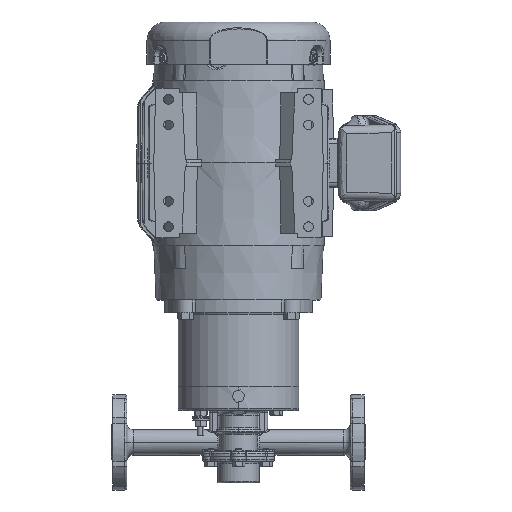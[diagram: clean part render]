
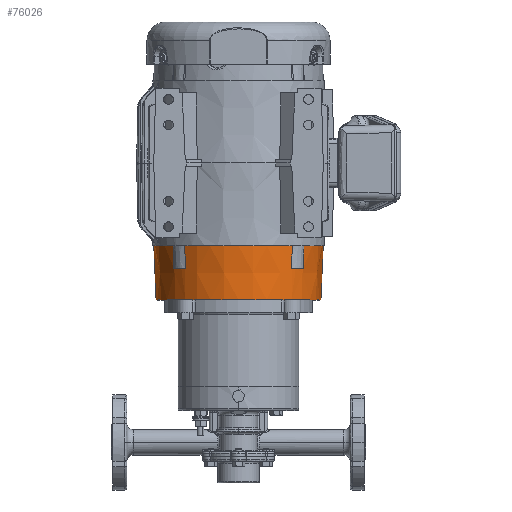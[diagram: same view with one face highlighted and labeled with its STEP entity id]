
A CAD part, top view. The second image highlights one B-rep face of the part: STEP entity #76026.
In plain terms, the highlighted conical face has half-angle 2.355 degrees and reference radius 84.582 mm.
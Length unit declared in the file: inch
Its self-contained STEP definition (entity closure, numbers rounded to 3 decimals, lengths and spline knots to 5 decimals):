
#1335 = CARTESIAN_POINT ( 'NONE',  ( 2.55036, 7.69067, 2.56457 ) ) ;
#2777 = DIRECTION ( 'NONE',  ( 0., -1., 0. ) ) ;
#4033 = LINE ( 'NONE', #118745, #129177 ) ;
#4147 = EDGE_CURVE ( 'NONE', #20553, #113999, #85285, .T. ) ;
#5050 = DIRECTION ( 'NONE',  ( 0., 1., 0. ) ) ;
#6581 = ORIENTED_EDGE ( 'NONE', *, *, #6912, .T. ) ;
#6912 = EDGE_CURVE ( 'NONE', #110770, #46168, #35804, .T. ) ;
#7505 = CARTESIAN_POINT ( 'NONE',  ( 2.09557, 7.69067, 3.01936 ) ) ;
#8940 = AXIS2_PLACEMENT_3D ( 'NONE', #95044, #145971, #92651 ) ;
#9958 = AXIS2_PLACEMENT_3D ( 'NONE', #23329, #2777, #124154 ) ;
#11860 = AXIS2_PLACEMENT_3D ( 'NONE', #52588, #38657, #89497 ) ;
#12020 = CARTESIAN_POINT ( 'NONE',  ( -2.08968, 7.399, 3.00868 ) ) ;
#12727 = EDGE_CURVE ( 'NONE', #46168, #38695, #122188, .T. ) ;
#16559 = DIRECTION ( 'NONE',  ( 0., 1., 0. ) ) ;
#19048 = CARTESIAN_POINT ( 'NONE',  ( 2.10148, 7.98233, 3.03003 ) ) ;
#19782 = CARTESIAN_POINT ( 'NONE',  ( 0., 7.399, 0.469 ) ) ;
#19786 = DIRECTION ( 'NONE',  ( 1., 0., 0. ) ) ;
#20265 = AXIS2_PLACEMENT_3D ( 'NONE', #118999, #16559, #41936 ) ;
#20553 = VERTEX_POINT ( 'NONE', #130319 ) ;
#22176 = LINE ( 'NONE', #86085, #48750 ) ;
#23329 = CARTESIAN_POINT ( 'NONE',  ( 0., 8.274, 0.469 ) ) ;
#23360 = CARTESIAN_POINT ( 'NONE',  ( -3.32486, 8.274, 0.469 ) ) ;
#27000 = EDGE_CURVE ( 'NONE', #151677, #81959, #160147, .T. ) ;
#27556 = CARTESIAN_POINT ( 'NONE',  ( 2.56103, 7.98233, 2.57048 ) ) ;
#29959 = ORIENTED_EDGE ( 'NONE', *, *, #32397, .F. ) ;
#31308 = DIRECTION ( 'NONE',  ( 1., 0., 0. ) ) ;
#32397 = EDGE_CURVE ( 'NONE', #93761, #44919, #4033, .T. ) ;
#32951 = ORIENTED_EDGE ( 'NONE', *, *, #153664, .T. ) ;
#33081 = CIRCLE ( 'NONE', #106279, 3.28887 ) ;
#33783 = VERTEX_POINT ( 'NONE', #109735 ) ;
#35657 = CARTESIAN_POINT ( 'NONE',  ( 2.10741, 8.274, 3.04068 ) ) ;
#35804 = CIRCLE ( 'NONE', #56731, 3.28887 ) ;
#36912 = CARTESIAN_POINT ( 'NONE',  ( -2.08968, 7.399, 3.00868 ) ) ;
#38657 = DIRECTION ( 'NONE',  ( 0., -1., 0. ) ) ;
#38695 = VERTEX_POINT ( 'NONE', #35657 ) ;
#39644 = CARTESIAN_POINT ( 'NONE',  ( 3.23767, 6.154, 0.469 ) ) ;
#39972 = VERTEX_POINT ( 'NONE', #61416 ) ;
#40110 = CARTESIAN_POINT ( 'NONE',  ( 0., 7.399, 0.469 ) ) ;
#40632 = CARTESIAN_POINT ( 'NONE',  ( 2.53968, 7.399, 2.55868 ) ) ;
#41936 = DIRECTION ( 'NONE',  ( -1., 0., 0. ) ) ;
#44407 = EDGE_CURVE ( 'NONE', #93761, #146588, #140394, .T. ) ;
#44919 = VERTEX_POINT ( 'NONE', #23360 ) ;
#46168 = VERTEX_POINT ( 'NONE', #104624 ) ;
#46394 = ORIENTED_EDGE ( 'NONE', *, *, #134433, .F. ) ;
#48636 = ORIENTED_EDGE ( 'NONE', *, *, #135616, .T. ) ;
#48750 = VECTOR ( 'NONE', #111441, 39.37008 ) ;
#52588 = CARTESIAN_POINT ( 'NONE',  ( 0., 8.274, 0.469 ) ) ;
#56731 = AXIS2_PLACEMENT_3D ( 'NONE', #19782, #146923, #31308 ) ;
#58247 = ORIENTED_EDGE ( 'NONE', *, *, #44407, .T. ) ;
#61416 = CARTESIAN_POINT ( 'NONE',  ( 2.57168, 8.274, 2.57641 ) ) ;
#62183 = AXIS2_PLACEMENT_3D ( 'NONE', #69817, #5050, #19786 ) ;
#62437 = CIRCLE ( 'NONE', #9958, 3.32486 ) ;
#69817 = CARTESIAN_POINT ( 'NONE',  ( 0., 8.399, 0.469 ) ) ;
#71372 = CARTESIAN_POINT ( 'NONE',  ( 2.53968, 7.399, 2.55868 ) ) ;
#71928 = EDGE_CURVE ( 'NONE', #33783, #39972, #77356, .T. ) ;
#72243 = CARTESIAN_POINT ( 'NONE',  ( -2.10148, 7.98233, 3.03003 ) ) ;
#72765 = CONICAL_SURFACE ( 'NONE', #62183, 3.33, 0.041 ) ;
#74088 = CARTESIAN_POINT ( 'NONE',  ( -2.56103, 7.98233, 2.57048 ) ) ;
#76026 = ADVANCED_FACE ( 'NONE', ( #118988 ), #72765, .T. ) ;
#77356 = CIRCLE ( 'NONE', #11860, 3.32486 ) ;
#81771 = CARTESIAN_POINT ( 'NONE',  ( -2.53968, 7.399, 2.55868 ) ) ;
#81959 = VERTEX_POINT ( 'NONE', #12020 ) ;
#82329 = B_SPLINE_CURVE_WITH_KNOTS ( 'NONE', 3,
 ( #152299, #27556, #1335, #40632 ),
 .UNSPECIFIED., .F., .F.,
 ( 4, 4 ),
 ( 0.00445, 0.02669 ),
 .UNSPECIFIED. ) ;
#84791 = CARTESIAN_POINT ( 'NONE',  ( -2.55036, 7.69067, 2.56457 ) ) ;
#85285 = B_SPLINE_CURVE_WITH_KNOTS ( 'NONE', 3,
 ( #81771, #84791, #74088, #148796 ),
 .UNSPECIFIED., .F., .F.,
 ( 4, 4 ),
 ( 0.00127, 0.02352 ),
 .UNSPECIFIED. ) ;
#86085 = CARTESIAN_POINT ( 'NONE',  ( 3.33, 8.399, 0.469 ) ) ;
#89497 = DIRECTION ( 'NONE',  ( -1., 0., 0. ) ) ;
#90131 = DIRECTION ( 'NONE',  ( 0., 1., 0. ) ) ;
#92651 = DIRECTION ( 'NONE',  ( -1., 0., 0. ) ) ;
#92876 = CARTESIAN_POINT ( 'NONE',  ( -2.57168, 8.274, 2.57641 ) ) ;
#93761 = VERTEX_POINT ( 'NONE', #110050 ) ;
#95044 = CARTESIAN_POINT ( 'NONE',  ( 0., 8.274, 0.469 ) ) ;
#95233 = ORIENTED_EDGE ( 'NONE', *, *, #109789, .T. ) ;
#96513 = DIRECTION ( 'NONE',  ( -0.041, 0.999, 0. ) ) ;
#104624 = CARTESIAN_POINT ( 'NONE',  ( 2.08968, 7.399, 3.00868 ) ) ;
#106279 = AXIS2_PLACEMENT_3D ( 'NONE', #40110, #90131, #140219 ) ;
#109048 = CARTESIAN_POINT ( 'NONE',  ( -2.10741, 8.274, 3.04068 ) ) ;
#109735 = CARTESIAN_POINT ( 'NONE',  ( 3.32486, 8.274, 0.469 ) ) ;
#109789 = EDGE_CURVE ( 'NONE', #38695, #151677, #62437, .T. ) ;
#109861 = CARTESIAN_POINT ( 'NONE',  ( -2.09557, 7.69067, 3.01936 ) ) ;
#110050 = CARTESIAN_POINT ( 'NONE',  ( -3.23767, 6.154, 0.469 ) ) ;
#110221 = ORIENTED_EDGE ( 'NONE', *, *, #12727, .T. ) ;
#110770 = VERTEX_POINT ( 'NONE', #71372 ) ;
#111441 = DIRECTION ( 'NONE',  ( 0.041, 0.999, 0. ) ) ;
#111914 = EDGE_LOOP ( 'NONE', ( #29959, #58247, #48636, #138847, #116953, #6581, #110221, #95233, #115489, #46394, #123217, #32951 ) ) ;
#113999 = VERTEX_POINT ( 'NONE', #92876 ) ;
#115489 = ORIENTED_EDGE ( 'NONE', *, *, #27000, .T. ) ;
#116953 = ORIENTED_EDGE ( 'NONE', *, *, #119673, .T. ) ;
#118745 = CARTESIAN_POINT ( 'NONE',  ( -3.33, 8.399, 0.469 ) ) ;
#118988 = FACE_OUTER_BOUND ( 'NONE', #111914, .T. ) ;
#118999 = CARTESIAN_POINT ( 'NONE',  ( 0., 6.154, 0.469 ) ) ;
#119673 = EDGE_CURVE ( 'NONE', #39972, #110770, #82329, .T. ) ;
#122188 = B_SPLINE_CURVE_WITH_KNOTS ( 'NONE', 3,
 ( #130594, #7505, #19048, #144565 ),
 .UNSPECIFIED., .F., .F.,
 ( 4, 4 ),
 ( 0.00127, 0.02352 ),
 .UNSPECIFIED. ) ;
#123217 = ORIENTED_EDGE ( 'NONE', *, *, #4147, .T. ) ;
#124154 = DIRECTION ( 'NONE',  ( -1., 0., 0. ) ) ;
#129177 = VECTOR ( 'NONE', #96513, 39.37008 ) ;
#130319 = CARTESIAN_POINT ( 'NONE',  ( -2.53968, 7.399, 2.55868 ) ) ;
#130594 = CARTESIAN_POINT ( 'NONE',  ( 2.08968, 7.399, 3.00868 ) ) ;
#134433 = EDGE_CURVE ( 'NONE', #20553, #81959, #33081, .T. ) ;
#135616 = EDGE_CURVE ( 'NONE', #146588, #33783, #22176, .T. ) ;
#138847 = ORIENTED_EDGE ( 'NONE', *, *, #71928, .T. ) ;
#140219 = DIRECTION ( 'NONE',  ( -1., 0., 0. ) ) ;
#140394 = CIRCLE ( 'NONE', #20265, 3.23767 ) ;
#144565 = CARTESIAN_POINT ( 'NONE',  ( 2.10741, 8.274, 3.04068 ) ) ;
#145971 = DIRECTION ( 'NONE',  ( 0., -1., 0. ) ) ;
#146588 = VERTEX_POINT ( 'NONE', #39644 ) ;
#146923 = DIRECTION ( 'NONE',  ( 0., -1., 0. ) ) ;
#148796 = CARTESIAN_POINT ( 'NONE',  ( -2.57168, 8.274, 2.57641 ) ) ;
#150519 = CIRCLE ( 'NONE', #8940, 3.32486 ) ;
#151677 = VERTEX_POINT ( 'NONE', #153014 ) ;
#152299 = CARTESIAN_POINT ( 'NONE',  ( 2.57168, 8.274, 2.57641 ) ) ;
#153014 = CARTESIAN_POINT ( 'NONE',  ( -2.10741, 8.274, 3.04068 ) ) ;
#153664 = EDGE_CURVE ( 'NONE', #113999, #44919, #150519, .T. ) ;
#160147 = B_SPLINE_CURVE_WITH_KNOTS ( 'NONE', 3,
 ( #109048, #72243, #109861, #36912 ),
 .UNSPECIFIED., .F., .F.,
 ( 4, 4 ),
 ( 0.00445, 0.02669 ),
 .UNSPECIFIED. ) ;
